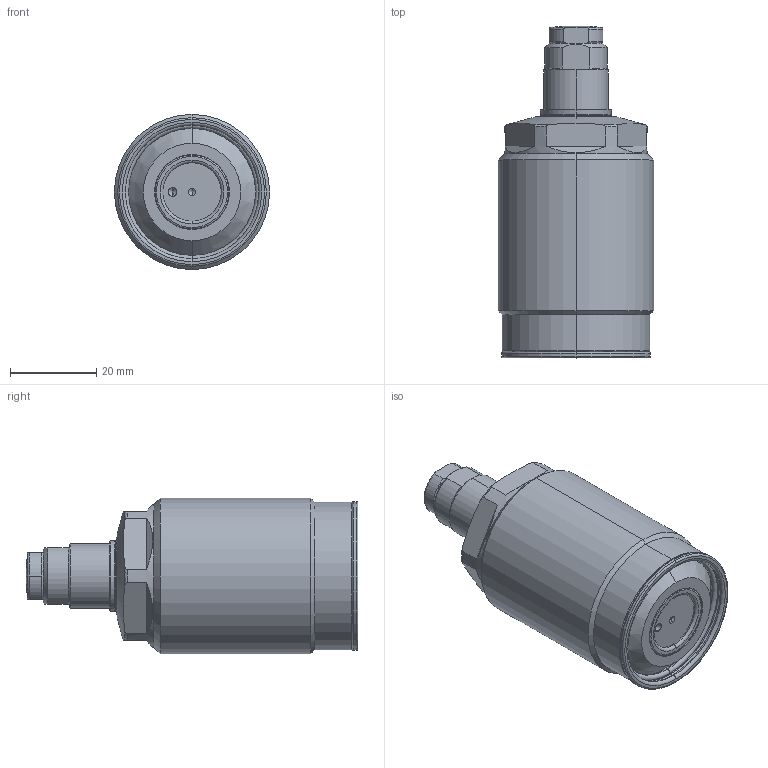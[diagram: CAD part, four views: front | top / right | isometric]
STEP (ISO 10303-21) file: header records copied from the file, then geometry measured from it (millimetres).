
FILE_DESCRIPTION(/* description */ (''),/* implementation_level */ '2;1');
FILE_NAME(/* name */ 'TSS36.stp',/* time_stamp */ '2024-11-02T13:19:12+08:00',/* author */ (''),/* organization */ (''),/* preprocessor_version */ 'ST-DEVELOPER v16.7',/* originating_system */ 'SIEMENS PLM Software NX 12.0',/* authorisation */ '');
FILE_SCHEMA (('AP203_CONFIGURATION_CONTROLLED_3D_DESIGN_OF_MECHANICAL_PARTS_AND_ASSEMBLIES_MIM_LF { 1 0 10303 403 2 1 2}'));
Length unit declared in the file: millimetre
Products named in the file (7): XLC-M10_contactbolt; XLC-M10_Oring; TSS36-04; TSS36-03; TSS36-02; TSS36-01; LD0363-x-E_step
Assembly tree (6 placements, depth 3):
  LD0363-x-E_step
    TSS36-01
      XLC-M10_Oring
      XLC-M10_contactbolt
    TSS36-02
    TSS36-03
    TSS36-04
Bounding box: 36 x 77 x 36 mm (x, y, z)
Volume: 54104.7 mm3; surface area: 11859.4 mm2
Topology: 5 solids, 5 shells, 371 faces, 778 edges, 424 vertices
Faces by surface type: cone 234, torus 58, cylinder 41, plane 36, sphere 2
Entity records: 10815 total; most frequent: CARTESIAN_POINT 1978, DIRECTION 1915, ORIENTED_EDGE 1548, AXIS2_PLACEMENT_3D 807, EDGE_CURVE 774, CIRCLE 429, VERTEX_POINT 424, EDGE_LOOP 386
